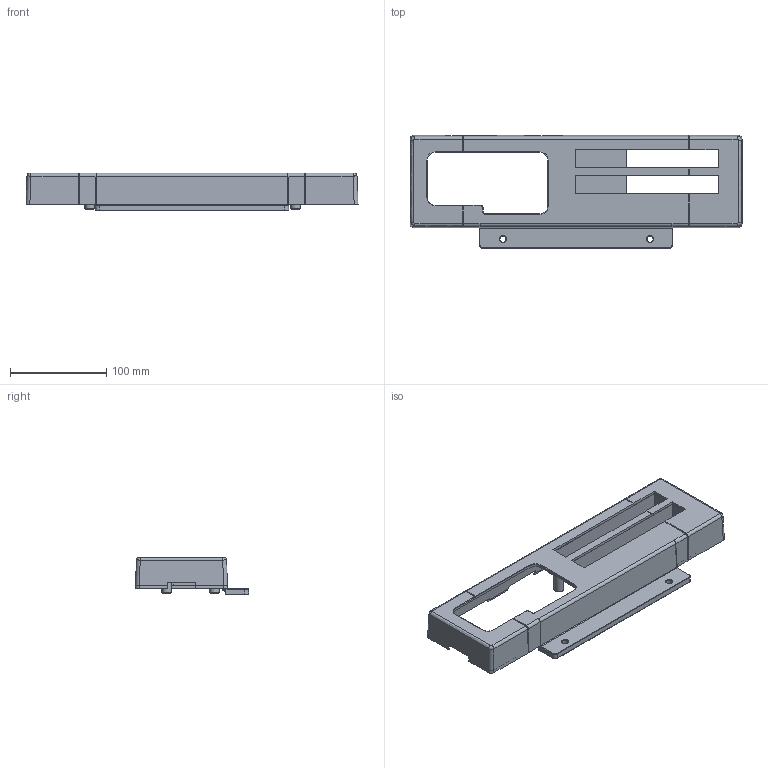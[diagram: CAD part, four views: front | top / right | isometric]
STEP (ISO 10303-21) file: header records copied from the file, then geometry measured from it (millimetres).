
FILE_DESCRIPTION(('FreeCAD Model'),'2;1');
FILE_NAME('Open CASCADE Shape Model','2023-09-06T18:15:48',(''),(''), 'Open CASCADE STEP processor 7.6','FreeCAD','Unknown');
FILE_SCHEMA(('AUTOMOTIVE_DESIGN { 1 0 10303 214 1 1 1 1 }'));
Products named in the file (1): Upper_Body
Bounding box: 345.26 x 117.77 x 39 mm (x, y, z)
Volume: 211709.5 mm3; surface area: 147768.5 mm2
Topology: 1 solids, 1 shells, 390 faces, 958 edges, 580 vertices
Faces by surface type: bspline 132, plane 127, cylinder 82, torus 32, extrusion 11, revolution 6
Full cylindrical faces by diameter (mm): 4.2 x3, 6.4 x2, 10 x3
Entity records: 52748 total; most frequent: CARTESIAN_POINT 35895, DIRECTION 2486, ORIENTED_EDGE 1916, PCURVE 1916, DEFINITIONAL_REPRESENTATION 1916, VECTOR 1588, LINE 1577, EDGE_CURVE 958
